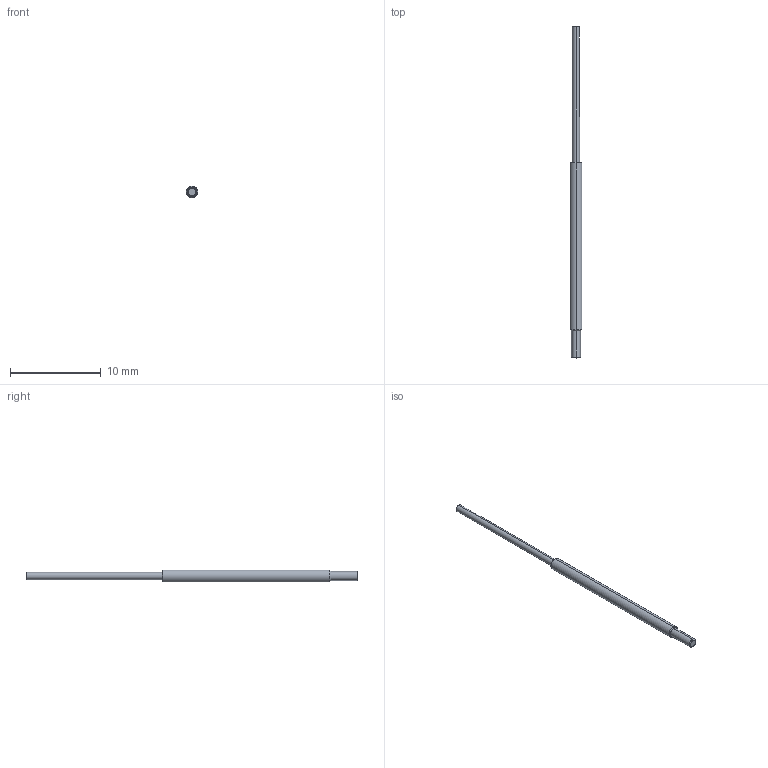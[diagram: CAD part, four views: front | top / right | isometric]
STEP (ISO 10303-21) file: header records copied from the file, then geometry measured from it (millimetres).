
FILE_DESCRIPTION (( 'STEP AP214' ), '1' );
FILE_NAME ('TRL-0024-A.STEP', '2021-06-29T17:51:31', ( '' ), ( '' ), 'SwSTEP 2.0', 'SolidWorks 2016', '' );
FILE_SCHEMA (( 'AUTOMOTIVE_DESIGN' ));
Length unit declared in the file: millimetre
Products named in the file (1): TRL-0024-A
Bounding box: 1.3 x 36.6 x 1.3 mm (x, y, z)
Volume: 33.6 mm3; surface area: 123.8 mm2
Topology: 1 solids, 1 shells, 24 faces, 52 edges, 32 vertices
Faces by surface type: cone 10, plane 8, cylinder 6
Entity records: 696 total; most frequent: DIRECTION 124, CARTESIAN_POINT 121, ORIENTED_EDGE 104, EDGE_CURVE 52, AXIS2_PLACEMENT_3D 51, VERTEX_POINT 32, EDGE_LOOP 26, CIRCLE 26
